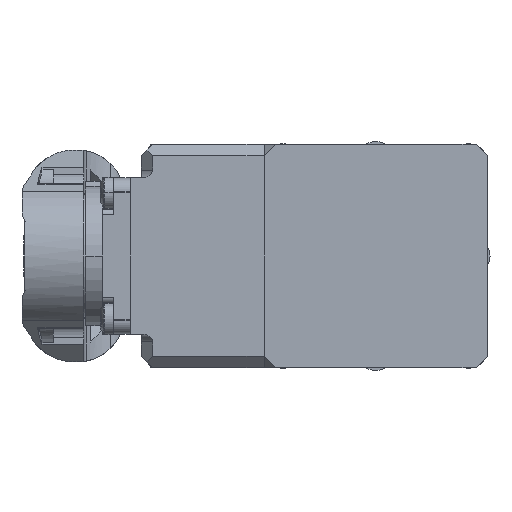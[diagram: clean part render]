
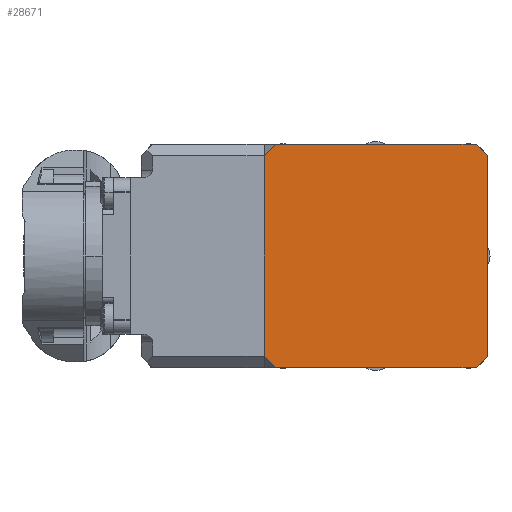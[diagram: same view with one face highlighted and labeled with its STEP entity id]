
A CAD part, left-side view. The second image highlights one B-rep face of the part: STEP entity #28671.
In plain terms, the highlighted planar face has unit normal (-1, 0, 0).
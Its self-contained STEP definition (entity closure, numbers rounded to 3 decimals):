
#54 = CARTESIAN_POINT ( 'NONE',  ( -113., 18., -20. ) ) ;
#2575 = LINE ( 'NONE', #62663, #65638 ) ;
#3196 = VERTEX_POINT ( 'NONE', #28003 ) ;
#4490 = DIRECTION ( 'NONE',  ( 0., -1., 0. ) ) ;
#6342 = LINE ( 'NONE', #57600, #43877 ) ;
#7146 = DIRECTION ( 'NONE',  ( 0., 0.707, -0.707 ) ) ;
#8106 = LINE ( 'NONE', #18134, #9735 ) ;
#9612 = VECTOR ( 'NONE', #7146, 1000. ) ;
#9735 = VECTOR ( 'NONE', #58993, 1000. ) ;
#10220 = VERTEX_POINT ( 'NONE', #62319 ) ;
#12890 = VERTEX_POINT ( 'NONE', #55970 ) ;
#13683 = VERTEX_POINT ( 'NONE', #42506 ) ;
#15735 = EDGE_CURVE ( 'NONE', #62096, #10220, #19605, .T. ) ;
#15804 = VECTOR ( 'NONE', #27659, 1000. ) ;
#18134 = CARTESIAN_POINT ( 'NONE',  ( -113., 20., 18. ) ) ;
#18202 = CARTESIAN_POINT ( 'NONE',  ( -113., -18., -20. ) ) ;
#18384 = ORIENTED_EDGE ( 'NONE', *, *, #57983, .T. ) ;
#19301 = ORIENTED_EDGE ( 'NONE', *, *, #33092, .T. ) ;
#19605 = LINE ( 'NONE', #18202, #46814 ) ;
#21898 = EDGE_CURVE ( 'NONE', #10220, #34268, #63898, .T. ) ;
#22111 = EDGE_CURVE ( 'NONE', #3196, #49907, #6342, .T. ) ;
#22468 = CARTESIAN_POINT ( 'NONE',  ( -113., -18., 20. ) ) ;
#23695 = DIRECTION ( 'NONE',  ( 0., 0., 1. ) ) ;
#26049 = VERTEX_POINT ( 'NONE', #42147 ) ;
#27659 = DIRECTION ( 'NONE',  ( 0., 1., 0. ) ) ;
#28003 = CARTESIAN_POINT ( 'NONE',  ( -113., 20., -18. ) ) ;
#28671 = ADVANCED_FACE ( 'NONE', ( #39253 ), #49172, .T. ) ;
#29103 = CARTESIAN_POINT ( 'NONE',  ( -113., -18., -20. ) ) ;
#29383 = LINE ( 'NONE', #22468, #15804 ) ;
#32617 = CARTESIAN_POINT ( 'NONE',  ( -113., 18., 20. ) ) ;
#33092 = EDGE_CURVE ( 'NONE', #13683, #26049, #63912, .T. ) ;
#34268 = VERTEX_POINT ( 'NONE', #44738 ) ;
#34657 = ORIENTED_EDGE ( 'NONE', *, *, #15735, .T. ) ;
#36218 = ORIENTED_EDGE ( 'NONE', *, *, #36916, .T. ) ;
#36799 = VECTOR ( 'NONE', #55150, 1000. ) ;
#36916 = EDGE_CURVE ( 'NONE', #34268, #12890, #2575, .T. ) ;
#39253 = FACE_OUTER_BOUND ( 'NONE', #41660, .T. ) ;
#40234 = CARTESIAN_POINT ( 'NONE',  ( -113., 18., -20. ) ) ;
#41155 = ORIENTED_EDGE ( 'NONE', *, *, #43940, .T. ) ;
#41660 = EDGE_LOOP ( 'NONE', ( #34657, #52740, #36218, #41155, #19301, #18384, #56102, #65486 ) ) ;
#42147 = CARTESIAN_POINT ( 'NONE',  ( -113., 20., 18. ) ) ;
#42374 = DIRECTION ( 'NONE',  ( 0., 0.707, 0.707 ) ) ;
#42506 = CARTESIAN_POINT ( 'NONE',  ( -113., 18., 20. ) ) ;
#43877 = VECTOR ( 'NONE', #62734, 1000. ) ;
#43940 = EDGE_CURVE ( 'NONE', #12890, #13683, #29383, .T. ) ;
#44049 = CARTESIAN_POINT ( 'NONE',  ( -113., 0., 0. ) ) ;
#44738 = CARTESIAN_POINT ( 'NONE',  ( -113., -20., 18. ) ) ;
#44916 = CARTESIAN_POINT ( 'NONE',  ( -113., -20., -18. ) ) ;
#46814 = VECTOR ( 'NONE', #64220, 1000. ) ;
#49172 = PLANE ( 'NONE',  #52721 ) ;
#49907 = VERTEX_POINT ( 'NONE', #54 ) ;
#52424 = EDGE_CURVE ( 'NONE', #49907, #62096, #62255, .T. ) ;
#52721 = AXIS2_PLACEMENT_3D ( 'NONE', #44049, #54272, #23695 ) ;
#52740 = ORIENTED_EDGE ( 'NONE', *, *, #21898, .T. ) ;
#54272 = DIRECTION ( 'NONE',  ( -1., 0., 0. ) ) ;
#55150 = DIRECTION ( 'NONE',  ( 0., 0., 1. ) ) ;
#55970 = CARTESIAN_POINT ( 'NONE',  ( -113., -18., 20. ) ) ;
#56102 = ORIENTED_EDGE ( 'NONE', *, *, #22111, .T. ) ;
#57600 = CARTESIAN_POINT ( 'NONE',  ( -113., 20., -18. ) ) ;
#57983 = EDGE_CURVE ( 'NONE', #26049, #3196, #8106, .T. ) ;
#58993 = DIRECTION ( 'NONE',  ( 0., 0., -1. ) ) ;
#60642 = VECTOR ( 'NONE', #4490, 1000. ) ;
#62096 = VERTEX_POINT ( 'NONE', #29103 ) ;
#62255 = LINE ( 'NONE', #40234, #60642 ) ;
#62319 = CARTESIAN_POINT ( 'NONE',  ( -113., -20., -18. ) ) ;
#62663 = CARTESIAN_POINT ( 'NONE',  ( -113., -20., 18. ) ) ;
#62734 = DIRECTION ( 'NONE',  ( 0., -0.707, -0.707 ) ) ;
#63898 = LINE ( 'NONE', #44916, #36799 ) ;
#63912 = LINE ( 'NONE', #32617, #9612 ) ;
#64220 = DIRECTION ( 'NONE',  ( 0., -0.707, 0.707 ) ) ;
#65486 = ORIENTED_EDGE ( 'NONE', *, *, #52424, .T. ) ;
#65638 = VECTOR ( 'NONE', #42374, 1000. ) ;
